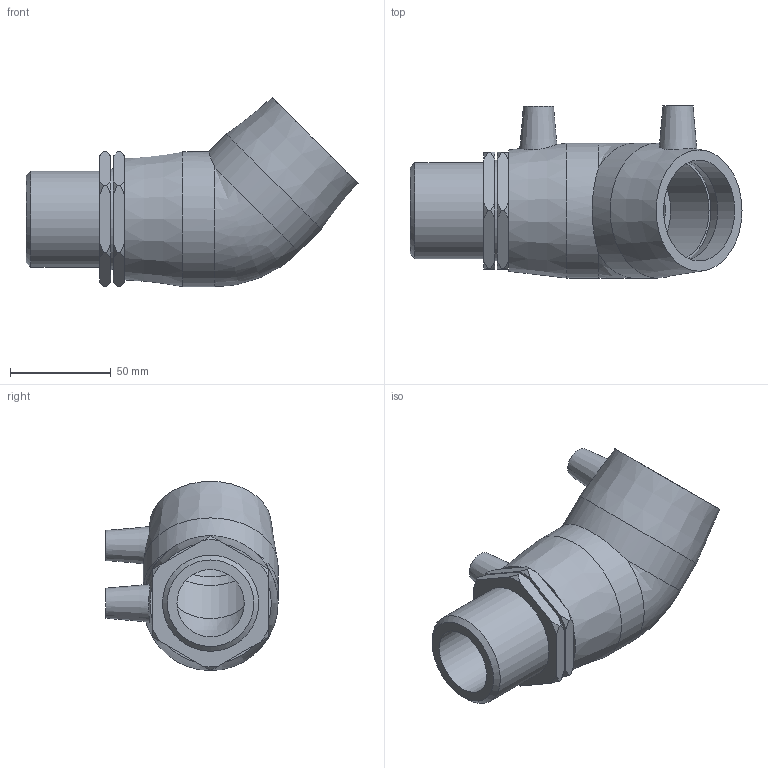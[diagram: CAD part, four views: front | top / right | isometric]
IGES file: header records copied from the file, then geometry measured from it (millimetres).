
Global section: file name: 497604050015.ipt; native system: Autodesk Inventor 2015; preprocessor: unknown; author: KIM; date: 20171106.094437; units: millimetre
Bounding box: 165 x 85.5 x 94.04 mm (x, y, z)
Volume: 261349.2 mm3; surface area: 63787.7 mm2
Topology: 1 solids, 2 shells, 77 faces, 196 edges, 133 vertices
Faces by surface type: plane 30, cone 29, revolution 8, cylinder 8, bspline 2
Full cylindrical faces by diameter (mm): 4 x2, 47.803 x1, 50 x3, 67 x2
